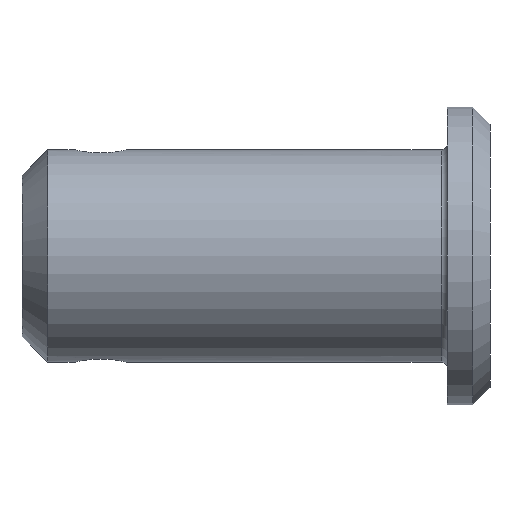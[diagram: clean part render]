
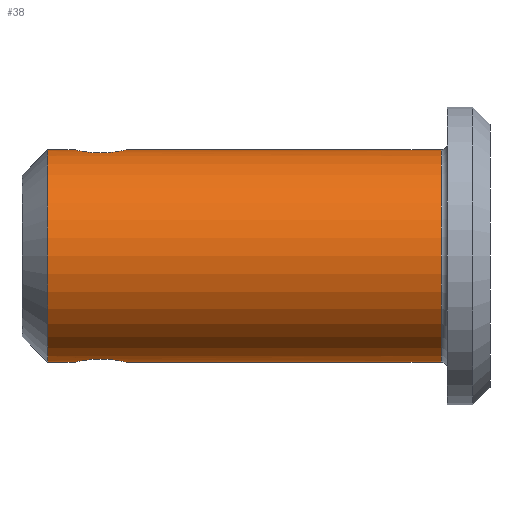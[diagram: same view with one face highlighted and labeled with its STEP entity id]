
A CAD part, front view. The second image highlights one B-rep face of the part: STEP entity #38.
In plain terms, the highlighted cylindrical face has radius 5 mm (diameter 10 mm), a partial arc.
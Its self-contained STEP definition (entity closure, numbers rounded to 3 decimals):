
#3 = EDGE_LOOP ( 'NONE', ( #40, #15, #39, #69, #72, #109, #70, #105 ) ) ;
#15 = ORIENTED_EDGE ( 'NONE', *, *, #65, .T. ) ;
#23 = VERTEX_POINT ( 'NONE', #156 ) ;
#25 = VERTEX_POINT ( 'NONE', #164 ) ;
#26 = VERTEX_POINT ( 'NONE', #160 ) ;
#28 = VERTEX_POINT ( 'NONE', #159 ) ;
#38 = ADVANCED_FACE ( 'NONE', ( #144 ), #150, .T. ) ;
#39 = ORIENTED_EDGE ( 'NONE', *, *, #98, .T. ) ;
#40 = ORIENTED_EDGE ( 'NONE', *, *, #90, .F. ) ;
#44 = VERTEX_POINT ( 'NONE', #158 ) ;
#45 = VERTEX_POINT ( 'NONE', #214 ) ;
#47 = EDGE_CURVE ( 'NONE', #44, #45, #204, .T. ) ;
#60 = EDGE_CURVE ( 'NONE', #26, #123, #421, .T. ) ;
#65 = EDGE_CURVE ( 'NONE', #23, #25, #422, .T. ) ;
#69 = ORIENTED_EDGE ( 'NONE', *, *, #47, .T. ) ;
#70 = ORIENTED_EDGE ( 'NONE', *, *, #60, .F. ) ;
#71 = EDGE_CURVE ( 'NONE', #123, #124, #462, .T. ) ;
#72 = ORIENTED_EDGE ( 'NONE', *, *, #94, .T. ) ;
#90 = EDGE_CURVE ( 'NONE', #23, #28, #289, .T. ) ;
#94 = EDGE_CURVE ( 'NONE', #45, #124, #308, .T. ) ;
#98 = EDGE_CURVE ( 'NONE', #25, #44, #304, .T. ) ;
#105 = ORIENTED_EDGE ( 'NONE', *, *, #122, .T. ) ;
#109 = ORIENTED_EDGE ( 'NONE', *, *, #71, .F. ) ;
#122 = EDGE_CURVE ( 'NONE', #26, #28, #444, .T. ) ;
#123 = VERTEX_POINT ( 'NONE', #336 ) ;
#124 = VERTEX_POINT ( 'NONE', #335 ) ;
#144 = FACE_OUTER_BOUND ( 'NONE', #3, .T. ) ;
#146 = AXIS2_PLACEMENT_3D ( 'NONE', #152, #217, #216 ) ;
#150 = CYLINDRICAL_SURFACE ( 'NONE', #146, 5. ) ;
#152 = CARTESIAN_POINT ( 'NONE',  ( 0., 0., 0. ) ) ;
#156 = CARTESIAN_POINT ( 'NONE',  ( -0.3, 0., -5. ) ) ;
#158 = CARTESIAN_POINT ( 'NONE',  ( -15.05, 0., 5. ) ) ;
#159 = CARTESIAN_POINT ( 'NONE',  ( -15.05, 0., -5. ) ) ;
#160 = CARTESIAN_POINT ( 'NONE',  ( -17.55, 0., -5. ) ) ;
#164 = CARTESIAN_POINT ( 'NONE',  ( -0.3, 0., 5. ) ) ;
#169 = CARTESIAN_POINT ( 'NONE',  ( -16.931, -1.092, 4.88 ) ) ;
#170 = CARTESIAN_POINT ( 'NONE',  ( -16.703, -1.186, 4.857 ) ) ;
#171 = CARTESIAN_POINT ( 'NONE',  ( -16.625, -1.21, 4.851 ) ) ;
#172 = CARTESIAN_POINT ( 'NONE',  ( -16.465, -1.242, 4.843 ) ) ;
#173 = CARTESIAN_POINT ( 'NONE',  ( -16.381, -1.25, 4.841 ) ) ;
#174 = CARTESIAN_POINT ( 'NONE',  ( -16.136, -1.25, 4.841 ) ) ;
#175 = CARTESIAN_POINT ( 'NONE',  ( -15.971, -1.217, 4.85 ) ) ;
#176 = CARTESIAN_POINT ( 'NONE',  ( -15.67, -1.092, 4.88 ) ) ;
#198 = CARTESIAN_POINT ( 'NONE',  ( -15.531, -0.999, 4.901 ) ) ;
#199 = CARTESIAN_POINT ( 'NONE',  ( -15.302, -0.769, 4.942 ) ) ;
#200 = CARTESIAN_POINT ( 'NONE',  ( -15.209, -0.631, 4.962 ) ) ;
#201 = CARTESIAN_POINT ( 'NONE',  ( -15.083, -0.329, 4.992 ) ) ;
#202 = CARTESIAN_POINT ( 'NONE',  ( -15.05, -0.166, 5. ) ) ;
#203 = CARTESIAN_POINT ( 'NONE',  ( -15.05, 0., 5. ) ) ;
#204 = B_SPLINE_CURVE_WITH_KNOTS ( 'NONE', 3,
 ( #203, #202, #201, #200, #199, #198, #176, #175, #174, #173, #172, #171, #170, #169, #281, #280, #279, #278, #277, #276, #275, #274 ),
 .UNSPECIFIED., .F., .F.,
 ( 4, 2, 2, 2, 2, 2, 2, 2, 2, 2, 4 ),
 ( 0., 0., 0.001, 0.001, 0.002, 0.002, 0.002, 0.003, 0.003, 0.003, 0.004 ),
 .UNSPECIFIED. ) ;
#214 = CARTESIAN_POINT ( 'NONE',  ( -17.55, 0., 5. ) ) ;
#216 = DIRECTION ( 'NONE',  ( 0., 0., 1. ) ) ;
#217 = DIRECTION ( 'NONE',  ( -1., 0., 0. ) ) ;
#274 = CARTESIAN_POINT ( 'NONE',  ( -17.55, 0., 5. ) ) ;
#275 = CARTESIAN_POINT ( 'NONE',  ( -17.55, -0.164, 5. ) ) ;
#276 = CARTESIAN_POINT ( 'NONE',  ( -17.517, -0.328, 4.992 ) ) ;
#277 = CARTESIAN_POINT ( 'NONE',  ( -17.423, -0.555, 4.97 ) ) ;
#278 = CARTESIAN_POINT ( 'NONE',  ( -17.384, -0.628, 4.961 ) ) ;
#279 = CARTESIAN_POINT ( 'NONE',  ( -17.293, -0.763, 4.942 ) ) ;
#280 = CARTESIAN_POINT ( 'NONE',  ( -17.242, -0.826, 4.932 ) ) ;
#281 = CARTESIAN_POINT ( 'NONE',  ( -17.068, -1., 4.9 ) ) ;
#289 = LINE ( 'NONE', #455, #454 ) ;
#303 = CARTESIAN_POINT ( 'NONE',  ( 0., 0., 5. ) ) ;
#304 = LINE ( 'NONE', #303, #326 ) ;
#308 = LINE ( 'NONE', #410, #409 ) ;
#310 = DIRECTION ( 'NONE',  ( 0., 0., 1. ) ) ;
#311 = DIRECTION ( 'NONE',  ( -1., 0., 0. ) ) ;
#312 = AXIS2_PLACEMENT_3D ( 'NONE', #461, #311, #310 ) ;
#313 = AXIS2_PLACEMENT_3D ( 'NONE', #458, #460, #459 ) ;
#325 = DIRECTION ( 'NONE',  ( -1., 0., 0. ) ) ;
#326 = VECTOR ( 'NONE', #325, 1000. ) ;
#335 = CARTESIAN_POINT ( 'NONE',  ( -18.8, 0., 5. ) ) ;
#336 = CARTESIAN_POINT ( 'NONE',  ( -18.8, 0., -5. ) ) ;
#378 = CARTESIAN_POINT ( 'NONE',  ( -15.05, 0., -5. ) ) ;
#379 = CARTESIAN_POINT ( 'NONE',  ( -15.05, -0.166, -5. ) ) ;
#380 = CARTESIAN_POINT ( 'NONE',  ( -15.083, -0.33, -4.991 ) ) ;
#381 = CARTESIAN_POINT ( 'NONE',  ( -15.209, -0.631, -4.962 ) ) ;
#382 = CARTESIAN_POINT ( 'NONE',  ( -15.302, -0.77, -4.942 ) ) ;
#383 = CARTESIAN_POINT ( 'NONE',  ( -15.531, -0.999, -4.901 ) ) ;
#384 = CARTESIAN_POINT ( 'NONE',  ( -15.67, -1.092, -4.88 ) ) ;
#385 = CARTESIAN_POINT ( 'NONE',  ( -15.896, -1.186, -4.857 ) ) ;
#386 = CARTESIAN_POINT ( 'NONE',  ( -15.976, -1.21, -4.851 ) ) ;
#387 = CARTESIAN_POINT ( 'NONE',  ( -16.137, -1.242, -4.843 ) ) ;
#388 = CARTESIAN_POINT ( 'NONE',  ( -16.218, -1.25, -4.841 ) ) ;
#389 = CARTESIAN_POINT ( 'NONE',  ( -16.465, -1.25, -4.841 ) ) ;
#390 = CARTESIAN_POINT ( 'NONE',  ( -16.628, -1.217, -4.85 ) ) ;
#391 = CARTESIAN_POINT ( 'NONE',  ( -16.932, -1.091, -4.88 ) ) ;
#392 = CARTESIAN_POINT ( 'NONE',  ( -17.069, -0.999, -4.901 ) ) ;
#393 = CARTESIAN_POINT ( 'NONE',  ( -17.299, -0.768, -4.942 ) ) ;
#408 = DIRECTION ( 'NONE',  ( -1., 0., 0. ) ) ;
#409 = VECTOR ( 'NONE', #408, 1000. ) ;
#410 = CARTESIAN_POINT ( 'NONE',  ( 0., 0., 5. ) ) ;
#420 = CARTESIAN_POINT ( 'NONE',  ( 0., 0., -5. ) ) ;
#421 = LINE ( 'NONE', #420, #426 ) ;
#422 = CIRCLE ( 'NONE', #313, 5. ) ;
#425 = DIRECTION ( 'NONE',  ( -1., 0., 0. ) ) ;
#426 = VECTOR ( 'NONE', #425, 1000. ) ;
#433 = CARTESIAN_POINT ( 'NONE',  ( -17.392, -0.63, -4.962 ) ) ;
#434 = CARTESIAN_POINT ( 'NONE',  ( -17.517, -0.329, -4.991 ) ) ;
#435 = CARTESIAN_POINT ( 'NONE',  ( -17.55, -0.164, -5. ) ) ;
#436 = CARTESIAN_POINT ( 'NONE',  ( -17.55, 0., -5. ) ) ;
#444 = B_SPLINE_CURVE_WITH_KNOTS ( 'NONE', 3,
 ( #436, #435, #434, #433, #393, #392, #391, #390, #389, #388, #387, #386, #385, #384, #383, #382, #381, #380, #379, #378 ),
 .UNSPECIFIED., .F., .F.,
 ( 4, 2, 2, 2, 2, 2, 2, 2, 2, 4 ),
 ( 0.004, 0.004, 0.005, 0.005, 0.006, 0.006, 0.006, 0.007, 0.007, 0.008 ),
 .UNSPECIFIED. ) ;
#453 = DIRECTION ( 'NONE',  ( -1., 0., 0. ) ) ;
#454 = VECTOR ( 'NONE', #453, 1000. ) ;
#455 = CARTESIAN_POINT ( 'NONE',  ( 0., 0., -5. ) ) ;
#458 = CARTESIAN_POINT ( 'NONE',  ( -0.3, 0., 0. ) ) ;
#459 = DIRECTION ( 'NONE',  ( 0., 0., -1. ) ) ;
#460 = DIRECTION ( 'NONE',  ( -1., 0., 0. ) ) ;
#461 = CARTESIAN_POINT ( 'NONE',  ( -18.8, 0., 0. ) ) ;
#462 = CIRCLE ( 'NONE', #312, 5. ) ;
